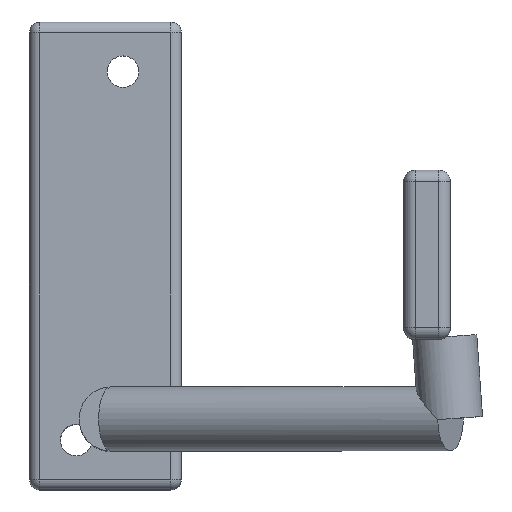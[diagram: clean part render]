
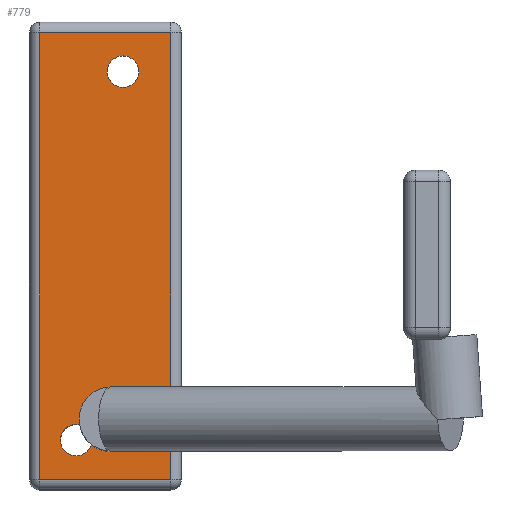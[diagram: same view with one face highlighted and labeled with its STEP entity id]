
A CAD part, top view. The second image highlights one B-rep face of the part: STEP entity #779.
In plain terms, the highlighted planar face has unit normal (0, 0, 1).
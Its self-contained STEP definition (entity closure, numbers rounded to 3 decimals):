
#126 = CYLINDRICAL_SURFACE('',#127,1.8);
#127 = AXIS2_PLACEMENT_3D('',#128,#129,#130);
#128 = CARTESIAN_POINT('',(49.8,-40.,56.2));
#129 = DIRECTION('',(0.,1.,0.));
#130 = DIRECTION('',(-1.,0.,0.));
#313 = VERTEX_POINT('',#314);
#314 = CARTESIAN_POINT('',(49.8,-38.2,58.));
#336 = EDGE_CURVE('',#313,#337,#339,.T.);
#337 = VERTEX_POINT('',#338);
#338 = CARTESIAN_POINT('',(49.8,38.2,58.));
#339 = SURFACE_CURVE('',#340,(#344,#351),.PCURVE_S1.);
#340 = LINE('',#341,#342);
#341 = CARTESIAN_POINT('',(49.8,-40.,58.));
#342 = VECTOR('',#343,1.);
#343 = DIRECTION('',(0.,1.,0.));
#344 = PCURVE('',#126,#345);
#345 = DEFINITIONAL_REPRESENTATION('',(#346),#350);
#346 = LINE('',#347,#348);
#347 = CARTESIAN_POINT('',(1.571,0.));
#348 = VECTOR('',#349,1.);
#349 = DIRECTION('',(0.,1.));
#350 = ( GEOMETRIC_REPRESENTATION_CONTEXT(2) 
PARAMETRIC_REPRESENTATION_CONTEXT() REPRESENTATION_CONTEXT('2D SPACE',''
  ) );
#351 = PCURVE('',#352,#357);
#352 = PLANE('',#353);
#353 = AXIS2_PLACEMENT_3D('',#354,#355,#356);
#354 = CARTESIAN_POINT('',(48.,-40.,58.));
#355 = DIRECTION('',(0.,0.,1.));
#356 = DIRECTION('',(1.,0.,0.));
#357 = DEFINITIONAL_REPRESENTATION('',(#358),#362);
#358 = LINE('',#359,#360);
#359 = CARTESIAN_POINT('',(1.8,0.));
#360 = VECTOR('',#361,1.);
#361 = DIRECTION('',(0.,1.));
#362 = ( GEOMETRIC_REPRESENTATION_CONTEXT(2) 
PARAMETRIC_REPRESENTATION_CONTEXT() REPRESENTATION_CONTEXT('2D SPACE',''
  ) );
#521 = CYLINDRICAL_SURFACE('',#522,1.8);
#522 = AXIS2_PLACEMENT_3D('',#523,#524,#525);
#523 = CARTESIAN_POINT('',(48.,-38.2,56.2));
#524 = DIRECTION('',(1.,0.,0.));
#525 = DIRECTION('',(0.,-1.,0.));
#710 = CYLINDRICAL_SURFACE('',#711,2.7);
#711 = AXIS2_PLACEMENT_3D('',#712,#713,#714);
#712 = CARTESIAN_POINT('',(56.,-31.5,40.));
#713 = DIRECTION('',(0.,0.,1.));
#714 = DIRECTION('',(1.,0.,-0.));
#741 = CYLINDRICAL_SURFACE('',#742,2.7);
#742 = AXIS2_PLACEMENT_3D('',#743,#744,#745);
#743 = CARTESIAN_POINT('',(64.,31.5,40.));
#744 = DIRECTION('',(0.,0.,1.));
#745 = DIRECTION('',(1.,0.,-0.));
#779 = ADVANCED_FACE('',(#780,#860,#947),#352,.T.);
#780 = FACE_BOUND('',#781,.T.);
#781 = EDGE_LOOP('',(#782,#783,#806,#834));
#782 = ORIENTED_EDGE('',*,*,#336,.F.);
#783 = ORIENTED_EDGE('',*,*,#784,.T.);
#784 = EDGE_CURVE('',#313,#785,#787,.T.);
#785 = VERTEX_POINT('',#786);
#786 = CARTESIAN_POINT('',(72.2,-38.2,58.));
#787 = SURFACE_CURVE('',#788,(#792,#799),.PCURVE_S1.);
#788 = LINE('',#789,#790);
#789 = CARTESIAN_POINT('',(48.,-38.2,58.));
#790 = VECTOR('',#791,1.);
#791 = DIRECTION('',(1.,0.,0.));
#792 = PCURVE('',#352,#793);
#793 = DEFINITIONAL_REPRESENTATION('',(#794),#798);
#794 = LINE('',#795,#796);
#795 = CARTESIAN_POINT('',(0.,1.8));
#796 = VECTOR('',#797,1.);
#797 = DIRECTION('',(1.,0.));
#798 = ( GEOMETRIC_REPRESENTATION_CONTEXT(2) 
PARAMETRIC_REPRESENTATION_CONTEXT() REPRESENTATION_CONTEXT('2D SPACE',''
  ) );
#799 = PCURVE('',#521,#800);
#800 = DEFINITIONAL_REPRESENTATION('',(#801),#805);
#801 = LINE('',#802,#803);
#802 = CARTESIAN_POINT('',(-1.571,0.));
#803 = VECTOR('',#804,1.);
#804 = DIRECTION('',(-0.,1.));
#805 = ( GEOMETRIC_REPRESENTATION_CONTEXT(2) 
PARAMETRIC_REPRESENTATION_CONTEXT() REPRESENTATION_CONTEXT('2D SPACE',''
  ) );
#806 = ORIENTED_EDGE('',*,*,#807,.T.);
#807 = EDGE_CURVE('',#785,#808,#810,.T.);
#808 = VERTEX_POINT('',#809);
#809 = CARTESIAN_POINT('',(72.2,38.2,58.));
#810 = SURFACE_CURVE('',#811,(#815,#822),.PCURVE_S1.);
#811 = LINE('',#812,#813);
#812 = CARTESIAN_POINT('',(72.2,-40.,58.));
#813 = VECTOR('',#814,1.);
#814 = DIRECTION('',(0.,1.,0.));
#815 = PCURVE('',#352,#816);
#816 = DEFINITIONAL_REPRESENTATION('',(#817),#821);
#817 = LINE('',#818,#819);
#818 = CARTESIAN_POINT('',(24.2,0.));
#819 = VECTOR('',#820,1.);
#820 = DIRECTION('',(0.,1.));
#821 = ( GEOMETRIC_REPRESENTATION_CONTEXT(2) 
PARAMETRIC_REPRESENTATION_CONTEXT() REPRESENTATION_CONTEXT('2D SPACE',''
  ) );
#822 = PCURVE('',#823,#828);
#823 = CYLINDRICAL_SURFACE('',#824,1.8);
#824 = AXIS2_PLACEMENT_3D('',#825,#826,#827);
#825 = CARTESIAN_POINT('',(72.2,-40.,56.2));
#826 = DIRECTION('',(0.,1.,0.));
#827 = DIRECTION('',(1.,0.,-0.));
#828 = DEFINITIONAL_REPRESENTATION('',(#829),#833);
#829 = LINE('',#830,#831);
#830 = CARTESIAN_POINT('',(-1.571,0.));
#831 = VECTOR('',#832,1.);
#832 = DIRECTION('',(-0.,1.));
#833 = ( GEOMETRIC_REPRESENTATION_CONTEXT(2) 
PARAMETRIC_REPRESENTATION_CONTEXT() REPRESENTATION_CONTEXT('2D SPACE',''
  ) );
#834 = ORIENTED_EDGE('',*,*,#835,.F.);
#835 = EDGE_CURVE('',#337,#808,#836,.T.);
#836 = SURFACE_CURVE('',#837,(#841,#848),.PCURVE_S1.);
#837 = LINE('',#838,#839);
#838 = CARTESIAN_POINT('',(48.,38.2,58.));
#839 = VECTOR('',#840,1.);
#840 = DIRECTION('',(1.,0.,0.));
#841 = PCURVE('',#352,#842);
#842 = DEFINITIONAL_REPRESENTATION('',(#843),#847);
#843 = LINE('',#844,#845);
#844 = CARTESIAN_POINT('',(0.,78.2));
#845 = VECTOR('',#846,1.);
#846 = DIRECTION('',(1.,0.));
#847 = ( GEOMETRIC_REPRESENTATION_CONTEXT(2) 
PARAMETRIC_REPRESENTATION_CONTEXT() REPRESENTATION_CONTEXT('2D SPACE',''
  ) );
#848 = PCURVE('',#849,#854);
#849 = CYLINDRICAL_SURFACE('',#850,1.8);
#850 = AXIS2_PLACEMENT_3D('',#851,#852,#853);
#851 = CARTESIAN_POINT('',(48.,38.2,56.2));
#852 = DIRECTION('',(1.,0.,0.));
#853 = DIRECTION('',(-0.,1.,0.));
#854 = DEFINITIONAL_REPRESENTATION('',(#855),#859);
#855 = LINE('',#856,#857);
#856 = CARTESIAN_POINT('',(1.571,0.));
#857 = VECTOR('',#858,1.);
#858 = DIRECTION('',(0.,1.));
#859 = ( GEOMETRIC_REPRESENTATION_CONTEXT(2) 
PARAMETRIC_REPRESENTATION_CONTEXT() REPRESENTATION_CONTEXT('2D SPACE',''
  ) );
#860 = FACE_BOUND('',#861,.T.);
#861 = EDGE_LOOP('',(#862,#897,#925));
#862 = ORIENTED_EDGE('',*,*,#863,.T.);
#863 = EDGE_CURVE('',#864,#866,#868,.T.);
#864 = VERTEX_POINT('',#865);
#865 = CARTESIAN_POINT('',(56.568,-28.86,58.));
#866 = VERTEX_POINT('',#867);
#867 = CARTESIAN_POINT('',(56.5,-28.,58.));
#868 = SURFACE_CURVE('',#869,(#874,#885),.PCURVE_S1.);
#869 = CIRCLE('',#870,5.5);
#870 = AXIS2_PLACEMENT_3D('',#871,#872,#873);
#871 = CARTESIAN_POINT('',(62.,-28.,58.));
#872 = DIRECTION('',(0.,0.,-1.));
#873 = DIRECTION('',(-1.,0.,-0.));
#874 = PCURVE('',#352,#875);
#875 = DEFINITIONAL_REPRESENTATION('',(#876),#884);
#876 = ( BOUNDED_CURVE() B_SPLINE_CURVE(2,(#877,#878,#879,#880,#881,#882
,#883),.UNSPECIFIED.,.T.,.F.) B_SPLINE_CURVE_WITH_KNOTS((1,2,2,2,2,1),(
    -2.094,0.,2.094,4.189,6.283,
8.378),.UNSPECIFIED.) CURVE() GEOMETRIC_REPRESENTATION_ITEM() 
RATIONAL_B_SPLINE_CURVE((1.,0.5,1.,0.5,1.,0.5,1.)) REPRESENTATION_ITEM(
  '') );
#877 = CARTESIAN_POINT('',(8.5,12.));
#878 = CARTESIAN_POINT('',(8.5,21.526));
#879 = CARTESIAN_POINT('',(16.75,16.763));
#880 = CARTESIAN_POINT('',(25.,12.));
#881 = CARTESIAN_POINT('',(16.75,7.237));
#882 = CARTESIAN_POINT('',(8.5,2.474));
#883 = CARTESIAN_POINT('',(8.5,12.));
#884 = ( GEOMETRIC_REPRESENTATION_CONTEXT(2) 
PARAMETRIC_REPRESENTATION_CONTEXT() REPRESENTATION_CONTEXT('2D SPACE',''
  ) );
#885 = PCURVE('',#886,#891);
#886 = CYLINDRICAL_SURFACE('',#887,5.5);
#887 = AXIS2_PLACEMENT_3D('',#888,#889,#890);
#888 = CARTESIAN_POINT('',(62.,-28.,125.));
#889 = DIRECTION('',(0.,0.,-1.));
#890 = DIRECTION('',(-1.,0.,-0.));
#891 = DEFINITIONAL_REPRESENTATION('',(#892),#896);
#892 = LINE('',#893,#894);
#893 = CARTESIAN_POINT('',(0.,67.));
#894 = VECTOR('',#895,1.);
#895 = DIRECTION('',(1.,0.));
#896 = ( GEOMETRIC_REPRESENTATION_CONTEXT(2) 
PARAMETRIC_REPRESENTATION_CONTEXT() REPRESENTATION_CONTEXT('2D SPACE',''
  ) );
#897 = ORIENTED_EDGE('',*,*,#898,.T.);
#898 = EDGE_CURVE('',#866,#899,#901,.T.);
#899 = VERTEX_POINT('',#900);
#900 = CARTESIAN_POINT('',(58.577,-32.305,58.));
#901 = SURFACE_CURVE('',#902,(#907,#918),.PCURVE_S1.);
#902 = CIRCLE('',#903,5.5);
#903 = AXIS2_PLACEMENT_3D('',#904,#905,#906);
#904 = CARTESIAN_POINT('',(62.,-28.,58.));
#905 = DIRECTION('',(0.,0.,-1.));
#906 = DIRECTION('',(-1.,0.,-0.));
#907 = PCURVE('',#352,#908);
#908 = DEFINITIONAL_REPRESENTATION('',(#909),#917);
#909 = ( BOUNDED_CURVE() B_SPLINE_CURVE(2,(#910,#911,#912,#913,#914,#915
,#916),.UNSPECIFIED.,.T.,.F.) B_SPLINE_CURVE_WITH_KNOTS((1,2,2,2,2,1),(
    -2.094,0.,2.094,4.189,6.283,
8.378),.UNSPECIFIED.) CURVE() GEOMETRIC_REPRESENTATION_ITEM() 
RATIONAL_B_SPLINE_CURVE((1.,0.5,1.,0.5,1.,0.5,1.)) REPRESENTATION_ITEM(
  '') );
#910 = CARTESIAN_POINT('',(8.5,12.));
#911 = CARTESIAN_POINT('',(8.5,21.526));
#912 = CARTESIAN_POINT('',(16.75,16.763));
#913 = CARTESIAN_POINT('',(25.,12.));
#914 = CARTESIAN_POINT('',(16.75,7.237));
#915 = CARTESIAN_POINT('',(8.5,2.474));
#916 = CARTESIAN_POINT('',(8.5,12.));
#917 = ( GEOMETRIC_REPRESENTATION_CONTEXT(2) 
PARAMETRIC_REPRESENTATION_CONTEXT() REPRESENTATION_CONTEXT('2D SPACE',''
  ) );
#918 = PCURVE('',#886,#919);
#919 = DEFINITIONAL_REPRESENTATION('',(#920),#924);
#920 = LINE('',#921,#922);
#921 = CARTESIAN_POINT('',(0.,67.));
#922 = VECTOR('',#923,1.);
#923 = DIRECTION('',(1.,0.));
#924 = ( GEOMETRIC_REPRESENTATION_CONTEXT(2) 
PARAMETRIC_REPRESENTATION_CONTEXT() REPRESENTATION_CONTEXT('2D SPACE',''
  ) );
#925 = ORIENTED_EDGE('',*,*,#926,.F.);
#926 = EDGE_CURVE('',#864,#899,#927,.T.);
#927 = SURFACE_CURVE('',#928,(#933,#940),.PCURVE_S1.);
#928 = CIRCLE('',#929,2.7);
#929 = AXIS2_PLACEMENT_3D('',#930,#931,#932);
#930 = CARTESIAN_POINT('',(56.,-31.5,58.));
#931 = DIRECTION('',(0.,0.,1.));
#932 = DIRECTION('',(1.,0.,-0.));
#933 = PCURVE('',#352,#934);
#934 = DEFINITIONAL_REPRESENTATION('',(#935),#939);
#935 = CIRCLE('',#936,2.7);
#936 = AXIS2_PLACEMENT_2D('',#937,#938);
#937 = CARTESIAN_POINT('',(8.,8.5));
#938 = DIRECTION('',(1.,0.));
#939 = ( GEOMETRIC_REPRESENTATION_CONTEXT(2) 
PARAMETRIC_REPRESENTATION_CONTEXT() REPRESENTATION_CONTEXT('2D SPACE',''
  ) );
#940 = PCURVE('',#710,#941);
#941 = DEFINITIONAL_REPRESENTATION('',(#942),#946);
#942 = LINE('',#943,#944);
#943 = CARTESIAN_POINT('',(0.,18.));
#944 = VECTOR('',#945,1.);
#945 = DIRECTION('',(1.,0.));
#946 = ( GEOMETRIC_REPRESENTATION_CONTEXT(2) 
PARAMETRIC_REPRESENTATION_CONTEXT() REPRESENTATION_CONTEXT('2D SPACE',''
  ) );
#947 = FACE_BOUND('',#948,.T.);
#948 = EDGE_LOOP('',(#949));
#949 = ORIENTED_EDGE('',*,*,#950,.F.);
#950 = EDGE_CURVE('',#951,#951,#953,.T.);
#951 = VERTEX_POINT('',#952);
#952 = CARTESIAN_POINT('',(66.7,31.5,58.));
#953 = SURFACE_CURVE('',#954,(#959,#966),.PCURVE_S1.);
#954 = CIRCLE('',#955,2.7);
#955 = AXIS2_PLACEMENT_3D('',#956,#957,#958);
#956 = CARTESIAN_POINT('',(64.,31.5,58.));
#957 = DIRECTION('',(0.,0.,1.));
#958 = DIRECTION('',(1.,0.,-0.));
#959 = PCURVE('',#352,#960);
#960 = DEFINITIONAL_REPRESENTATION('',(#961),#965);
#961 = CIRCLE('',#962,2.7);
#962 = AXIS2_PLACEMENT_2D('',#963,#964);
#963 = CARTESIAN_POINT('',(16.,71.5));
#964 = DIRECTION('',(1.,0.));
#965 = ( GEOMETRIC_REPRESENTATION_CONTEXT(2) 
PARAMETRIC_REPRESENTATION_CONTEXT() REPRESENTATION_CONTEXT('2D SPACE',''
  ) );
#966 = PCURVE('',#741,#967);
#967 = DEFINITIONAL_REPRESENTATION('',(#968),#972);
#968 = LINE('',#969,#970);
#969 = CARTESIAN_POINT('',(0.,18.));
#970 = VECTOR('',#971,1.);
#971 = DIRECTION('',(1.,0.));
#972 = ( GEOMETRIC_REPRESENTATION_CONTEXT(2) 
PARAMETRIC_REPRESENTATION_CONTEXT() REPRESENTATION_CONTEXT('2D SPACE',''
  ) );
